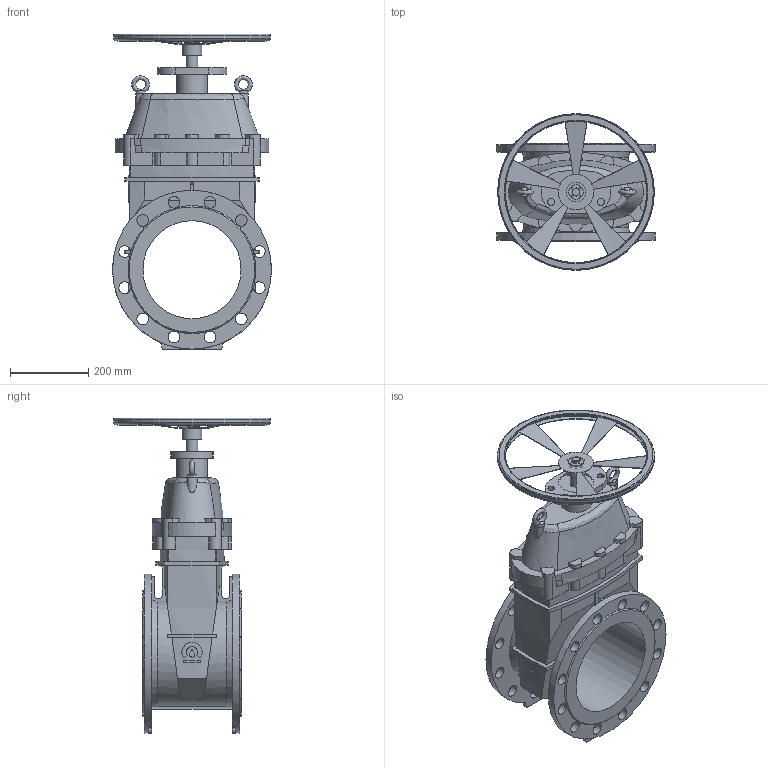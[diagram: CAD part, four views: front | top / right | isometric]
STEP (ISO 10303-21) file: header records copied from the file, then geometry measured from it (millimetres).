
FILE_DESCRIPTION(('STEP AP203'), '1');
FILE_NAME('Çàäâèæêà 47GV.M DN250 ñ ìàõîâèêîì', '', ('UNSPECIFIED'), ('UNSPECIFIED'), 'ASCON STEP Converter 1.6', 'ASCON Math Kernel', '');
FILE_SCHEMA(('CONFIG_CONTROL_DESIGN'));
Length unit declared in the file: millimetre
Bounding box: 405 x 400 x 805 mm (x, y, z)
Volume: 21918264.9 mm3; surface area: 1389737.4 mm2
Topology: 1 solids, 1 shells, 333 faces, 986 edges, 640 vertices
Faces by surface type: plane 162, cylinder 127, cone 26, bspline 10, torus 8
Full cylindrical faces by diameter (mm): 18 x4, 26 x2, 30 x25, 37 x1, 50 x1, 79 x1, 90 x1, 250 x1, 363 x1, 397 x1, 400 x1, 405 x2
Entity records: 35682 total; most frequent: CARTESIAN_POINT 24244, ORIENTED_EDGE 1854, DIRECTION 1786, EDGE_CURVE 927, AXIS2_PLACEMENT_3D 701, VERTEX_POINT 638, EDGE_LOOP 443, LINE 384
